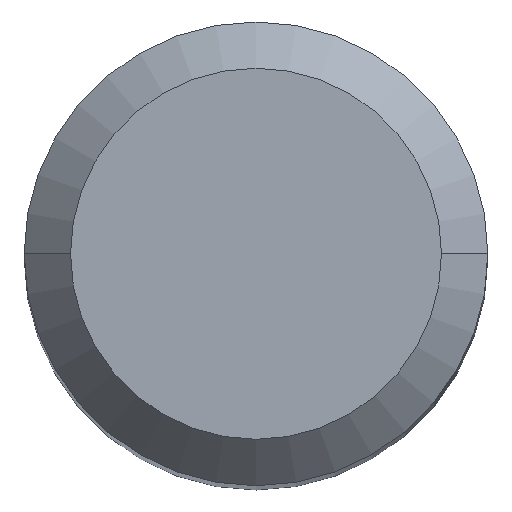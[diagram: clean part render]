
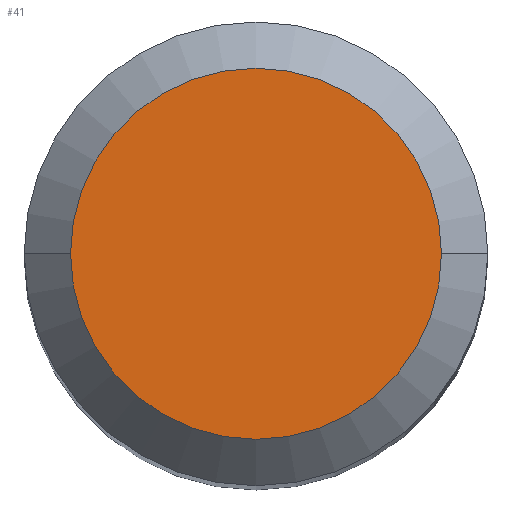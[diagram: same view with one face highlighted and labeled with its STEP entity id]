
A CAD part, top view. The second image highlights one B-rep face of the part: STEP entity #41.
In plain terms, the highlighted planar face has unit normal (0, 0, 1).
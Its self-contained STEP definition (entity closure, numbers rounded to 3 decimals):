
#12 = ORIENTED_EDGE ( 'NONE', *, *, #118, .F. ) ;
#15 = VERTEX_POINT ( 'NONE', #95 ) ;
#35 = CIRCLE ( 'NONE', #639, 3.2 ) ;
#41 = ADVANCED_FACE ( 'NONE', ( #100 ), #300, .T. ) ;
#51 = VERTEX_POINT ( 'NONE', #416 ) ;
#95 = CARTESIAN_POINT ( 'NONE',  ( -3.2, 0., 0. ) ) ;
#100 = FACE_OUTER_BOUND ( 'NONE', #205, .T. ) ;
#117 = CARTESIAN_POINT ( 'NONE',  ( 0., 0., 0. ) ) ;
#118 = EDGE_CURVE ( 'NONE', #51, #15, #475, .T. ) ;
#147 = DIRECTION ( 'NONE',  ( -1., 0., 0. ) ) ;
#183 = AXIS2_PLACEMENT_3D ( 'NONE', #117, #600, #147 ) ;
#190 = CARTESIAN_POINT ( 'NONE',  ( 0., 3.2, 0. ) ) ;
#205 = EDGE_LOOP ( 'NONE', ( #577, #12 ) ) ;
#300 = PLANE ( 'NONE',  #589 ) ;
#371 = CARTESIAN_POINT ( 'NONE',  ( 0., 0., 0. ) ) ;
#416 = CARTESIAN_POINT ( 'NONE',  ( 3.2, 0., 0. ) ) ;
#475 = CIRCLE ( 'NONE', #183, 3.2 ) ;
#508 = DIRECTION ( 'NONE',  ( 1., 0., 0. ) ) ;
#515 = EDGE_CURVE ( 'NONE', #15, #51, #35, .T. ) ;
#561 = DIRECTION ( 'NONE',  ( 0., 0., 1. ) ) ;
#575 = DIRECTION ( 'NONE',  ( -1., 0., 0. ) ) ;
#577 = ORIENTED_EDGE ( 'NONE', *, *, #515, .F. ) ;
#589 = AXIS2_PLACEMENT_3D ( 'NONE', #190, #561, #508 ) ;
#600 = DIRECTION ( 'NONE',  ( 0., 0., -1. ) ) ;
#621 = DIRECTION ( 'NONE',  ( 0., 0., -1. ) ) ;
#639 = AXIS2_PLACEMENT_3D ( 'NONE', #371, #621, #575 ) ;
